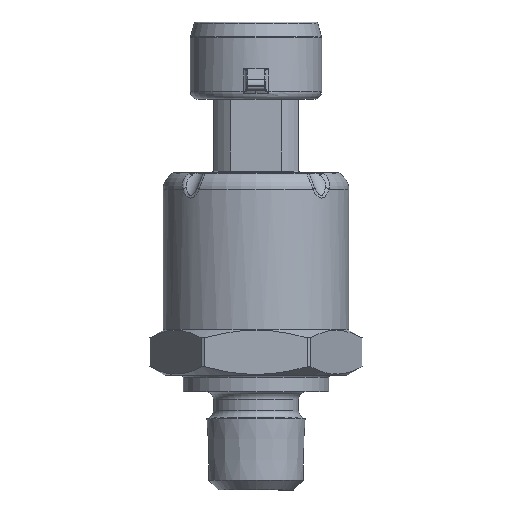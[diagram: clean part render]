
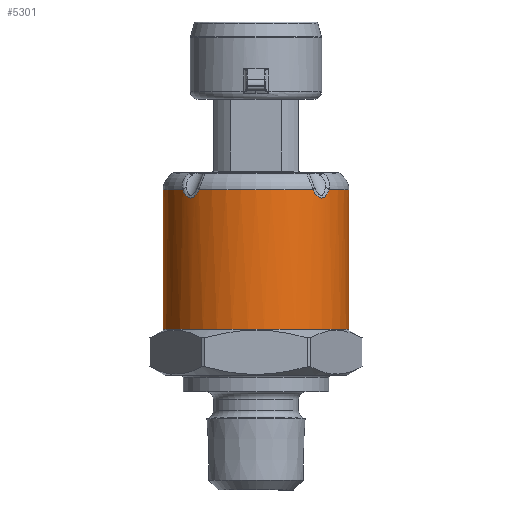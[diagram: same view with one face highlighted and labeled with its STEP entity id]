
A CAD part, front view. The second image highlights one B-rep face of the part: STEP entity #5301.
In plain terms, the highlighted cylindrical face has radius 12 mm (diameter 24 mm), a full revolution.
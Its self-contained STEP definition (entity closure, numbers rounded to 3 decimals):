
#187=CYLINDRICAL_SURFACE('',#5975,12.);
#436=LINE('',#11753,#683);
#683=VECTOR('',#7518,12.);
#1079=FACE_OUTER_BOUND('',#1418,.T.);
#1418=EDGE_LOOP('',(#4822,#4823,#4824,#4825,#4826,#4827,#4828,#4829,#4830,
#4831,#4832,#4833));
#1709=CIRCLE('',#5962,12.);
#1714=CIRCLE('',#5969,12.);
#1719=CIRCLE('',#5976,12.);
#1720=CIRCLE('',#5977,12.);
#1721=CIRCLE('',#5978,12.);
#1960=B_SPLINE_CURVE_WITH_KNOTS('',3,(#11584,#11585,#11586,#11587,#11588,
#11589,#11590,#11591,#11592,#11593),.UNSPECIFIED.,.F.,.F.,(4,1,1,1,1,1,
1,4),(0.,0.053,0.106,0.159,0.213,
0.266,0.319,0.372),.UNSPECIFIED.);
#1965=B_SPLINE_CURVE_WITH_KNOTS('',3,(#11695,#11696,#11697,#11698,#11699,
#11700,#11701,#11702,#11703,#11704,#11705,#11706,#11707,#11708,#11709,#11710,
#11711,#11712,#11713,#11714,#11715,#11716,#11717,#11718,#11719,#11720,#11721,
#11722),.UNSPECIFIED.,.F.,.F.,(4,3,3,3,3,3,3,3,3,4),(0.,0.029,
0.053,0.08,0.106,0.133,
0.157,0.159,0.177,0.186),
 .UNSPECIFIED.);
#1966=B_SPLINE_CURVE_WITH_KNOTS('',3,(#11725,#11726,#11727,#11728,#11729,
#11730,#11731,#11732,#11733,#11734),.UNSPECIFIED.,.F.,.F.,(4,1,1,1,1,1,
1,4),(0.,0.053,0.106,0.159,0.213,
0.266,0.319,0.372),.UNSPECIFIED.);
#1967=B_SPLINE_CURVE_WITH_KNOTS('',3,(#11735,#11736,#11737,#11738,#11739,
#11740,#11741,#11742,#11743,#11744),.UNSPECIFIED.,.F.,.F.,(4,1,1,1,1,1,
1,4),(0.,0.053,0.106,0.159,
0.213,0.266,0.319,0.372),
 .UNSPECIFIED.);
#1968=B_SPLINE_CURVE_WITH_KNOTS('',3,(#11745,#11746,#11747,#11748,#11749,
#11750,#11751),.UNSPECIFIED.,.F.,.F.,(4,1,1,1,4),(0.186,0.213,
0.266,0.292,0.372),.UNSPECIFIED.);
#2443=VERTEX_POINT('',#10992);
#2446=VERTEX_POINT('',#11161);
#2447=VERTEX_POINT('',#11170);
#2452=VERTEX_POINT('',#11395);
#2453=VERTEX_POINT('',#11404);
#2454=VERTEX_POINT('',#11437);
#2457=VERTEX_POINT('',#11514);
#2460=VERTEX_POINT('',#11693);
#2461=VERTEX_POINT('',#11694);
#2462=VERTEX_POINT('',#11752);
#3230=EDGE_CURVE('',#2446,#2447,#1709,.T.);
#3242=EDGE_CURVE('',#2452,#2453,#1714,.T.);
#3249=EDGE_CURVE('',#2454,#2457,#1960,.T.);
#3255=EDGE_CURVE('',#2460,#2461,#1965,.T.);
#3256=EDGE_CURVE('',#2460,#2457,#1719,.T.);
#3257=EDGE_CURVE('',#2454,#2443,#1720,.T.);
#3258=EDGE_CURVE('',#2446,#2443,#1966,.T.);
#3259=EDGE_CURVE('',#2452,#2447,#1967,.T.);
#3260=EDGE_CURVE('',#2461,#2453,#1968,.T.);
#3261=EDGE_CURVE('',#2461,#2462,#436,.T.);
#3262=EDGE_CURVE('',#2462,#2462,#1721,.T.);
#4822=ORIENTED_EDGE('',*,*,#3255,.F.);
#4823=ORIENTED_EDGE('',*,*,#3256,.T.);
#4824=ORIENTED_EDGE('',*,*,#3249,.F.);
#4825=ORIENTED_EDGE('',*,*,#3257,.T.);
#4826=ORIENTED_EDGE('',*,*,#3258,.F.);
#4827=ORIENTED_EDGE('',*,*,#3230,.T.);
#4828=ORIENTED_EDGE('',*,*,#3259,.F.);
#4829=ORIENTED_EDGE('',*,*,#3242,.T.);
#4830=ORIENTED_EDGE('',*,*,#3260,.F.);
#4831=ORIENTED_EDGE('',*,*,#3261,.T.);
#4832=ORIENTED_EDGE('',*,*,#3262,.T.);
#4833=ORIENTED_EDGE('',*,*,#3261,.F.);
#5301=ADVANCED_FACE('',(#1079),#187,.T.);
#5962=AXIS2_PLACEMENT_3D('',#11177,#7486,#7487);
#5969=AXIS2_PLACEMENT_3D('',#11411,#7500,#7501);
#5975=AXIS2_PLACEMENT_3D('',#11692,#7512,#7513);
#5976=AXIS2_PLACEMENT_3D('',#11723,#7514,#7515);
#5977=AXIS2_PLACEMENT_3D('',#11724,#7516,#7517);
#5978=AXIS2_PLACEMENT_3D('',#11754,#7519,#7520);
#7486=DIRECTION('center_axis',(0.,0.,-1.));
#7487=DIRECTION('ref_axis',(0.707,-0.707,0.));
#7500=DIRECTION('center_axis',(0.,0.,-1.));
#7501=DIRECTION('ref_axis',(0.707,-0.707,0.));
#7512=DIRECTION('center_axis',(0.,0.,1.));
#7513=DIRECTION('ref_axis',(0.707,-0.707,0.));
#7514=DIRECTION('center_axis',(0.,0.,-1.));
#7515=DIRECTION('ref_axis',(0.707,-0.707,0.));
#7516=DIRECTION('center_axis',(0.,0.,-1.));
#7517=DIRECTION('ref_axis',(0.707,-0.707,0.));
#7518=DIRECTION('',(0.,0.,-1.));
#7519=DIRECTION('center_axis',(0.,0.,1.));
#7520=DIRECTION('ref_axis',(0.707,-0.707,0.));
#10992=CARTESIAN_POINT('',(9.481,-7.356,17.005));
#11161=CARTESIAN_POINT('',(7.356,-9.481,17.005));
#11170=CARTESIAN_POINT('',(-7.356,-9.481,17.005));
#11177=CARTESIAN_POINT('Origin',(0.,0.,17.005));
#11395=CARTESIAN_POINT('',(-9.481,-7.356,17.005));
#11404=CARTESIAN_POINT('',(-9.481,7.356,17.005));
#11411=CARTESIAN_POINT('Origin',(0.,0.,17.005));
#11437=CARTESIAN_POINT('',(9.481,7.356,17.005));
#11514=CARTESIAN_POINT('',(7.356,9.481,17.005));
#11584=CARTESIAN_POINT('Ctrl Pts',(9.481,7.356,17.005));
#11585=CARTESIAN_POINT('Ctrl Pts',(9.421,7.433,16.853));
#11586=CARTESIAN_POINT('Ctrl Pts',(9.289,7.6,16.56));
#11587=CARTESIAN_POINT('Ctrl Pts',(9.032,7.905,16.18));
#11588=CARTESIAN_POINT('Ctrl Pts',(8.693,8.278,15.919));
#11589=CARTESIAN_POINT('Ctrl Pts',(8.279,8.692,15.92));
#11590=CARTESIAN_POINT('Ctrl Pts',(7.905,9.032,16.181));
#11591=CARTESIAN_POINT('Ctrl Pts',(7.6,9.288,16.56));
#11592=CARTESIAN_POINT('Ctrl Pts',(7.433,9.421,16.853));
#11593=CARTESIAN_POINT('Ctrl Pts',(7.356,9.481,17.005));
#11692=CARTESIAN_POINT('Origin',(0.,0.,-1.));
#11693=CARTESIAN_POINT('',(-7.356,9.481,17.005));
#11694=CARTESIAN_POINT('',(-8.485,8.485,15.929));
#11695=CARTESIAN_POINT('Ctrl Pts',(-7.356,9.481,17.005));
#11696=CARTESIAN_POINT('Ctrl Pts',(-7.398,9.449,16.923));
#11697=CARTESIAN_POINT('Ctrl Pts',(-7.441,9.415,16.843));
#11698=CARTESIAN_POINT('Ctrl Pts',(-7.487,9.378,16.765));
#11699=CARTESIAN_POINT('Ctrl Pts',(-7.526,9.347,16.698));
#11700=CARTESIAN_POINT('Ctrl Pts',(-7.566,9.314,16.633));
#11701=CARTESIAN_POINT('Ctrl Pts',(-7.609,9.279,16.57));
#11702=CARTESIAN_POINT('Ctrl Pts',(-7.655,9.241,16.502));
#11703=CARTESIAN_POINT('Ctrl Pts',(-7.704,9.201,16.436));
#11704=CARTESIAN_POINT('Ctrl Pts',(-7.755,9.158,16.373));
#11705=CARTESIAN_POINT('Ctrl Pts',(-7.806,9.114,16.311));
#11706=CARTESIAN_POINT('Ctrl Pts',(-7.86,9.068,16.253));
#11707=CARTESIAN_POINT('Ctrl Pts',(-7.916,9.019,16.2));
#11708=CARTESIAN_POINT('Ctrl Pts',(-7.973,8.969,16.146));
#11709=CARTESIAN_POINT('Ctrl Pts',(-8.032,8.916,16.098));
#11710=CARTESIAN_POINT('Ctrl Pts',(-8.094,8.86,16.058));
#11711=CARTESIAN_POINT('Ctrl Pts',(-8.149,8.809,16.021));
#11712=CARTESIAN_POINT('Ctrl Pts',(-8.207,8.756,15.991));
#11713=CARTESIAN_POINT('Ctrl Pts',(-8.265,8.7,15.969));
#11714=CARTESIAN_POINT('Ctrl Pts',(-8.272,8.693,15.966));
#11715=CARTESIAN_POINT('Ctrl Pts',(-8.279,8.687,15.964));
#11716=CARTESIAN_POINT('Ctrl Pts',(-8.285,8.681,15.962));
#11717=CARTESIAN_POINT('Ctrl Pts',(-8.328,8.64,15.947));
#11718=CARTESIAN_POINT('Ctrl Pts',(-8.372,8.597,15.938));
#11719=CARTESIAN_POINT('Ctrl Pts',(-8.415,8.555,15.933));
#11720=CARTESIAN_POINT('Ctrl Pts',(-8.439,8.532,15.93));
#11721=CARTESIAN_POINT('Ctrl Pts',(-8.462,8.509,15.929));
#11722=CARTESIAN_POINT('Ctrl Pts',(-8.485,8.485,15.929));
#11723=CARTESIAN_POINT('Origin',(0.,0.,17.005));
#11724=CARTESIAN_POINT('Origin',(0.,0.,17.005));
#11725=CARTESIAN_POINT('Ctrl Pts',(7.356,-9.481,17.005));
#11726=CARTESIAN_POINT('Ctrl Pts',(7.433,-9.421,16.853));
#11727=CARTESIAN_POINT('Ctrl Pts',(7.6,-9.289,16.56));
#11728=CARTESIAN_POINT('Ctrl Pts',(7.905,-9.032,16.18));
#11729=CARTESIAN_POINT('Ctrl Pts',(8.278,-8.693,15.919));
#11730=CARTESIAN_POINT('Ctrl Pts',(8.692,-8.279,15.92));
#11731=CARTESIAN_POINT('Ctrl Pts',(9.032,-7.905,16.181));
#11732=CARTESIAN_POINT('Ctrl Pts',(9.288,-7.6,16.56));
#11733=CARTESIAN_POINT('Ctrl Pts',(9.421,-7.433,16.853));
#11734=CARTESIAN_POINT('Ctrl Pts',(9.481,-7.356,17.005));
#11735=CARTESIAN_POINT('Ctrl Pts',(-9.481,-7.356,17.005));
#11736=CARTESIAN_POINT('Ctrl Pts',(-9.421,-7.433,
16.853));
#11737=CARTESIAN_POINT('Ctrl Pts',(-9.289,-7.6,
16.56));
#11738=CARTESIAN_POINT('Ctrl Pts',(-9.032,-7.905,16.18));
#11739=CARTESIAN_POINT('Ctrl Pts',(-8.693,-8.278,
15.919));
#11740=CARTESIAN_POINT('Ctrl Pts',(-8.279,-8.692,15.92));
#11741=CARTESIAN_POINT('Ctrl Pts',(-7.905,-9.032,
16.181));
#11742=CARTESIAN_POINT('Ctrl Pts',(-7.6,-9.288,16.56));
#11743=CARTESIAN_POINT('Ctrl Pts',(-7.433,-9.421,
16.853));
#11744=CARTESIAN_POINT('Ctrl Pts',(-7.356,-9.481,
17.005));
#11745=CARTESIAN_POINT('Ctrl Pts',(-8.485,8.485,15.929));
#11746=CARTESIAN_POINT('Ctrl Pts',(-8.552,8.419,15.929));
#11747=CARTESIAN_POINT('Ctrl Pts',(-8.749,8.217,15.963));
#11748=CARTESIAN_POINT('Ctrl Pts',(-8.976,7.967,16.137));
#11749=CARTESIAN_POINT('Ctrl Pts',(-9.252,7.646,16.487));
#11750=CARTESIAN_POINT('Ctrl Pts',(-9.392,7.471,16.777));
#11751=CARTESIAN_POINT('Ctrl Pts',(-9.481,7.356,17.005));
#11752=CARTESIAN_POINT('',(-8.485,8.485,-1.));
#11753=CARTESIAN_POINT('',(-8.485,8.485,-1.));
#11754=CARTESIAN_POINT('Origin',(0.,0.,-1.));
